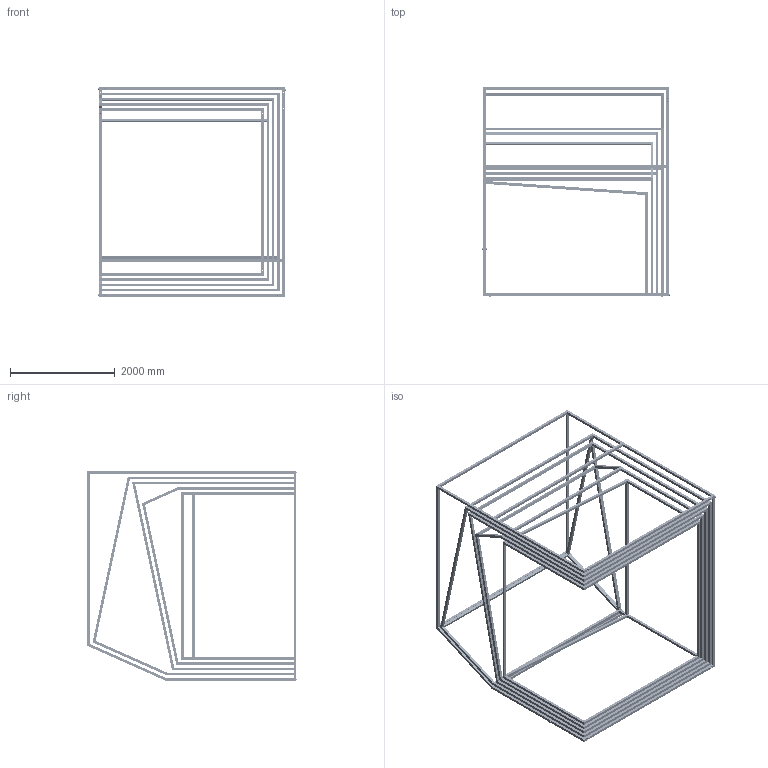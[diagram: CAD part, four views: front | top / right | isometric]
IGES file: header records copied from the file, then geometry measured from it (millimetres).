
Start section: SolidWorks IGES file using analytic representation for surfaces
Global section: file name: E:\012_VERRIERE-Lille\3d\maison-solid-plans\maison-12345.IGS; native system: SolidWorks 2013; preprocessor: SolidWorks 2013; author: Bob; date: 160915.192017; units: millimetre
Bounding box: 3594 x 4015.5 x 4000 mm (x, y, z)
Surface area: 81668239.3 mm2 (no closed solid volume)
Topology: 0 solids, 0 shells, 5127 faces, 113088 edges, 113088 vertices
Faces by surface type: revolution 2816, bspline 2311
